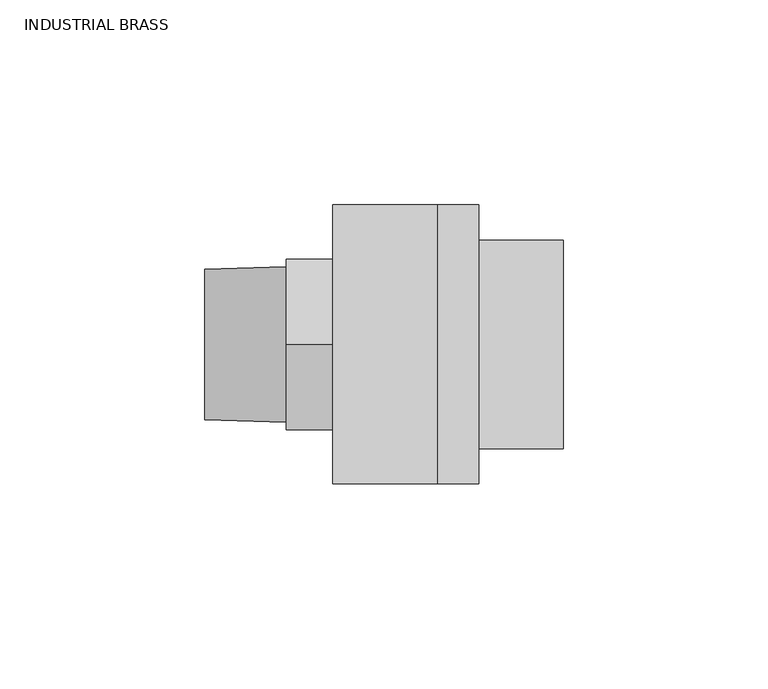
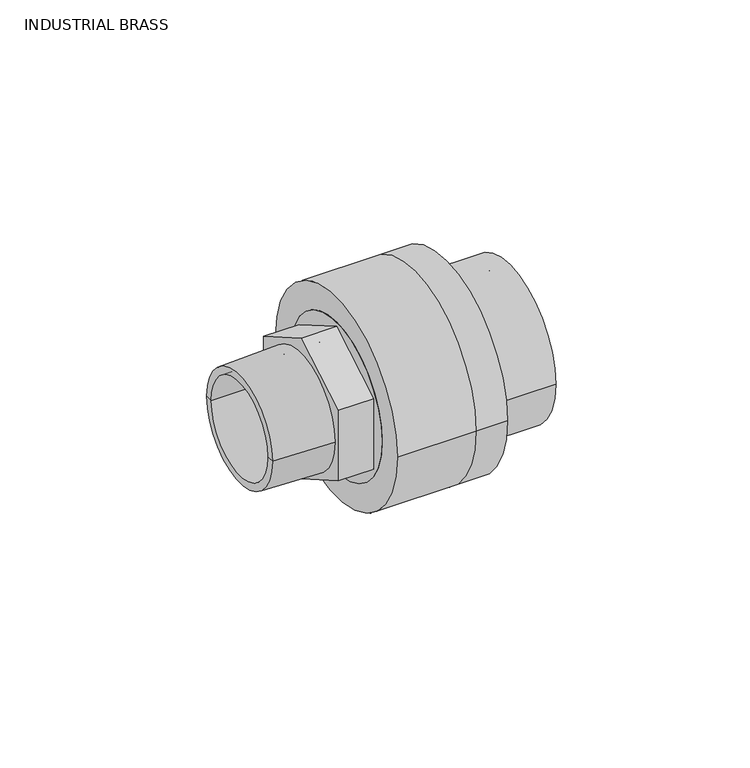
"""IFC4 building model written with IfcOpenShell, lengths in millimetres: valve geometry, Aquatherm - Transition Piece - M HEX : INDUSTRIAL BRASS."""

from ifc_helpers import new_model, si_unit, frame, origin, place, context, project, spatial, polyline, circle_curve, source, transform, mapped, element, save
from ifc_brep_helpers import plane_surface, cylinder_surface, revolved_surface, advanced_brep


def industrial_brass_5921bbe5(model_context):
    return source(origin(), model_context, "Body", "AdvancedBrep", [
        advanced_brep(
        [(25.4, -25.4, 0.0), (25.4, 25.4, 0.0), (25.4, -15.875, 0.0), (25.4, 15.875, 0.0), (0.0, -25.4, 0.0), (0.0, 25.4, 0.0), (0.0, 0.0, -24.0501028), (0.0, 20.828, -12.0250514), (0.0, 20.828, 12.0250514), (0.0, 0.0, 24.0501028), (0.0, -20.828, 12.0250514), (0.0, -20.828, -12.0250514), (0.0, -15.875, 0.0), (0.0, 15.875, 0.0), (-11.43, 0.0, -24.0501028), (-11.43, -20.828, -12.0250514), (-11.43, -20.828, 12.0250514), (-11.43, 0.0, 24.0501028), (-11.43, 20.828, 12.0250514), (-11.43, 20.828, -12.0250514), (-11.43, -18.9526355, 0.0), (-11.43, 18.9526355, 0.0), (-11.43, -15.875, 0.0), (-11.43, 15.875, 0.0), (-31.242, 15.875, 0.0), (-31.242, -15.875, 0.0), (-31.242, 18.3536145, 0.0), (-31.242, -18.3536145, 0.0)],
        [
            (0, 1, circle_curve(frame((25.4, 0.0, 0.0), z_axis=(1.0, 0.0, 0.0), x_axis=(0.0, 1.0, 0.0)), 25.4)),
            (1, 0, circle_curve(frame((25.4, 0.0, 0.0), z_axis=(1.0, 0.0, 0.0), x_axis=(0.0, 1.0, 0.0)), 25.4)),
            (2, 3, circle_curve(frame((25.4, 0.0, 0.0), z_axis=(-1.0, 0.0, 0.0), x_axis=(0.0, 1.0, 0.0)), 15.875)),
            (3, 2, circle_curve(frame((25.4, 0.0, 0.0), z_axis=(-1.0, 0.0, 0.0), x_axis=(0.0, 1.0, 0.0)), 15.875)),
            (4, 5, circle_curve(frame((0.0, 0.0, 0.0), z_axis=(-1.0, 0.0, 0.0), x_axis=(0.0, 1.0, 0.0)), 25.4)),
            (5, 4, circle_curve(frame((0.0, 0.0, 0.0), z_axis=(-1.0, 0.0, 0.0), x_axis=(0.0, 1.0, 0.0)), 25.4)),
            (6, 7),
            (7, 8),
            (8, 9),
            (9, 10),
            (10, 11),
            (11, 6),
            (0, 4),
            (5, 1),
            (2, 12),
            (12, 13, circle_curve(frame((0.0, 0.0, 0.0), z_axis=(-1.0, 0.0, 0.0), x_axis=(0.0, 1.0, 0.0)), 15.875)),
            (13, 3),
            (13, 12, circle_curve(frame((0.0, 0.0, 0.0), z_axis=(-1.0, 0.0, 0.0), x_axis=(0.0, 1.0, 0.0)), 15.875)),
            (14, 15),
            (15, 16),
            (16, 17),
            (17, 18),
            (18, 19),
            (19, 14),
            (20, 21, circle_curve(frame((-11.43, 0.0, 0.0), z_axis=(1.0, 0.0, 0.0), x_axis=(0.0, 1.0, 0.0)), 18.9526355)),
            (21, 20, circle_curve(frame((-11.43, 0.0, 0.0), z_axis=(1.0, 0.0, 0.0), x_axis=(0.0, 1.0, 0.0)), 18.9526355)),
            (19, 7),
            (6, 14),
            (18, 8),
            (17, 9),
            (16, 10),
            (15, 11),
            (12, 22),
            (22, 23, circle_curve(frame((-11.43, 0.0, 0.0), z_axis=(-1.0, 0.0, 0.0), x_axis=(0.0, 1.0, 0.0)), 15.875)),
            (23, 13),
            (23, 22, circle_curve(frame((-11.43, 0.0, 0.0), z_axis=(-1.0, 0.0, 0.0), x_axis=(0.0, 1.0, 0.0)), 15.875)),
            (23, 24),
            (24, 25, circle_curve(frame((-31.242, 0.0, 0.0), z_axis=(-1.0, 0.0, 0.0), x_axis=(0.0, 1.0, 0.0)), 15.875)),
            (25, 22),
            (25, 24, circle_curve(frame((-31.242, 0.0, 0.0), z_axis=(-1.0, 0.0, 0.0), x_axis=(0.0, 1.0, 0.0)), 15.875)),
            (24, 26),
            (26, 27, circle_curve(frame((-31.242, 0.0, 0.0), z_axis=(-1.0, 0.0, 0.0), x_axis=(0.0, 1.0, 0.0)), 18.3536145)),
            (27, 25),
            (27, 26, circle_curve(frame((-31.242, 0.0, 0.0), z_axis=(-1.0, 0.0, 0.0), x_axis=(0.0, 1.0, 0.0)), 18.3536145)),
            (26, 21),
            (20, 27),
        ],
        [
            plane_surface(frame((25.4, 25.4, 0.0), z_axis=(1.0, 0.0, 0.0), x_axis=(0.0, 0.0, 1.0))),
            plane_surface(frame((0.0, 25.4, 0.0), z_axis=(-1.0, 0.0, 0.0), x_axis=(0.0, 0.0, -1.0))),
            cylinder_surface(frame((0.0, 0.0, 0.0), z_axis=(1.0, 0.0, 0.0), x_axis=(0.0, 1.0, 0.0)), 25.4),
            revolved_surface(polyline([(0.0, 15.875, 0.0), (25.4, 15.875, 0.0)]), (17.447219, 0.0, 0.0), (-1.0, 0.0, 0.0)),
            plane_surface(frame((-11.43, 0.0, -24.0501028), z_axis=(-1.0, 0.0, 0.0), x_axis=(0.0, -0.8660254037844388, -0.49999999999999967))),
            plane_surface(frame((0.0, 0.0, -24.0501028), z_axis=(0.0, 0.49999999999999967, -0.8660254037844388), x_axis=(-1.0, 0.0, 0.0))),
            plane_surface(frame((0.0, 20.828, -12.0250514), z_axis=(0.0, 1.0, 0.0), x_axis=(-1.0, 0.0, 0.0))),
            plane_surface(frame((0.0, 20.828, 12.0250514), z_axis=(0.0, 0.49999999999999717, 0.8660254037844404), x_axis=(-1.0, 0.0, 0.0))),
            plane_surface(frame((0.0, 0.0, 24.0501028), z_axis=(0.0, -0.5000000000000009, 0.8660254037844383), x_axis=(-1.0, 0.0, 0.0))),
            plane_surface(frame((0.0, -20.828, 12.0250514), z_axis=(0.0, -1.0, 0.0), x_axis=(-1.0, 0.0, 0.0))),
            plane_surface(frame((0.0, -20.828, -12.0250514), z_axis=(0.0, -0.49999999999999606, -0.8660254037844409), x_axis=(-1.0, 0.0, 0.0))),
            revolved_surface(polyline([(-11.43, 15.875, 0.0), (0.0, 15.875, 0.0)]), (0.0, 0.0, 0.0), (-1.0, 0.0, 0.0)),
            revolved_surface(polyline([(-31.242000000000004, 15.875, 0.0), (-11.43, 15.875, 0.0)]), (-66.1150688, 0.0, 0.0), (-1.0, 0.0, 0.0)),
            plane_surface(frame((-31.242, 0.0, 0.0), z_axis=(-1.0, 0.0, 0.0), x_axis=(0.0, 1.0, 0.0))),
            revolved_surface(polyline([(-11.43, 18.9526355, 0.0), (-31.242, 18.3536145, 0.0)]), (-66.1150688, 0.0, 0.0), (-1.0, 0.0, 0.0)),
        ],
        [
            (0, [[1, 2], [3, 4]]),
            (1, [[5, 6], [7, 8, 9, 10, 11, 12]]),
            (2, [[-1, 13, -6, 14]]),
            (2, [[-2, -14, -5, -13]]),
            (3, [[-3, 15, 16, 17]]),
            (3, [[-4, -17, 18, -15]]),
            (4, [[19, 20, 21, 22, 23, 24], [25, 26]]),
            (5, [[-24, 27, -7, 28]]),
            (6, [[-23, 29, -8, -27]]),
            (7, [[-22, 30, -9, -29]]),
            (8, [[-21, 31, -10, -30]]),
            (9, [[-20, 32, -11, -31]]),
            (10, [[-19, -28, -12, -32]]),
            (11, [[33, 34, 35, -16]]),
            (11, [[-33, -18, -35, 36]]),
            (12, [[37, 38, 39, -36]]),
            (12, [[-37, -34, -39, 40]]),
            (13, [[-38, 41, 42, 43]]),
            (13, [[-40, -43, 44, -41]]),
            (14, [[-42, 45, -25, 46]]),
            (14, [[-44, -46, -26, -45]]),
        ],
    ),
        advanced_brep(
        [(0.0, -34.036, 0.0), (0.0, 34.036, 0.0), (0.0, -25.4, 0.0), (0.0, 25.4, 0.0), (25.4, 34.036, 0.0), (25.4, -34.036, 0.0), (25.4, 25.4, 0.0), (25.4, -25.4, 0.0), (35.56, -34.036, 0.0), (35.56, 34.036, 0.0), (35.56, 25.4, 0.0), (35.56, -25.4, 0.0), (35.56, 19.939, 0.0), (35.56, -19.939, 0.0), (35.56, -15.875, 0.0), (35.56, 15.875, 0.0), (25.4, -15.875, 0.0), (25.4, 15.875, 0.0), (56.134, -25.4, 0.0), (56.134, 25.4, 0.0), (56.134, -19.939, 0.0), (56.134, 19.939, 0.0)],
        [
            (0, 1, circle_curve(frame((0.0, 0.0, 0.0), z_axis=(-1.0, 0.0, 0.0), x_axis=(0.0, 1.0, 0.0)), 34.036)),
            (1, 0, circle_curve(frame((0.0, 0.0, 0.0), z_axis=(-1.0, 0.0, 0.0), x_axis=(0.0, 1.0, 0.0)), 34.036)),
            (2, 3, circle_curve(frame((0.0, 0.0, 0.0), z_axis=(1.0, 0.0, 0.0), x_axis=(0.0, 1.0, 0.0)), 25.4)),
            (3, 2, circle_curve(frame((0.0, 0.0, 0.0), z_axis=(1.0, 0.0, 0.0), x_axis=(0.0, 1.0, 0.0)), 25.4)),
            (1, 4),
            (4, 5, circle_curve(frame((25.4, 0.0, 0.0), z_axis=(-1.0, 0.0, 0.0), x_axis=(0.0, 1.0, 0.0)), 34.036)),
            (5, 0),
            (5, 4, circle_curve(frame((25.4, 0.0, 0.0), z_axis=(-1.0, 0.0, 0.0), x_axis=(0.0, 1.0, 0.0)), 34.036)),
            (3, 6),
            (6, 7, circle_curve(frame((25.4, 0.0, 0.0), z_axis=(1.0, 0.0, 0.0), x_axis=(0.0, 1.0, 0.0)), 25.4)),
            (7, 2),
            (7, 6, circle_curve(frame((25.4, 0.0, 0.0), z_axis=(1.0, 0.0, 0.0), x_axis=(0.0, 1.0, 0.0)), 25.4)),
            (8, 9, circle_curve(frame((35.56, 0.0, 0.0), z_axis=(1.0, 0.0, 0.0), x_axis=(0.0, 1.0, 0.0)), 34.036)),
            (9, 8, circle_curve(frame((35.56, 0.0, 0.0), z_axis=(1.0, 0.0, 0.0), x_axis=(0.0, 1.0, 0.0)), 34.036)),
            (10, 11, circle_curve(frame((35.56, 0.0, 0.0), z_axis=(-1.0, 0.0, 0.0), x_axis=(0.0, 1.0, 0.0)), 25.4)),
            (11, 10, circle_curve(frame((35.56, 0.0, 0.0), z_axis=(-1.0, 0.0, 0.0), x_axis=(0.0, 1.0, 0.0)), 25.4)),
            (12, 13, circle_curve(frame((35.56, 0.0, 0.0), z_axis=(1.0, 0.0, 0.0), x_axis=(0.0, 1.0, 0.0)), 19.939)),
            (13, 12, circle_curve(frame((35.56, 0.0, 0.0), z_axis=(1.0, 0.0, 0.0), x_axis=(0.0, 1.0, 0.0)), 19.939)),
            (14, 15, circle_curve(frame((35.56, 0.0, 0.0), z_axis=(-1.0, 0.0, 0.0), x_axis=(0.0, 1.0, 0.0)), 15.875)),
            (15, 14, circle_curve(frame((35.56, 0.0, 0.0), z_axis=(-1.0, 0.0, 0.0), x_axis=(0.0, 1.0, 0.0)), 15.875)),
            (16, 17, circle_curve(frame((25.4, 0.0, 0.0), z_axis=(1.0, 0.0, 0.0), x_axis=(0.0, 1.0, 0.0)), 15.875)),
            (17, 16, circle_curve(frame((25.4, 0.0, 0.0), z_axis=(1.0, 0.0, 0.0), x_axis=(0.0, 1.0, 0.0)), 15.875)),
            (8, 5),
            (4, 9),
            (14, 16),
            (17, 15),
            (18, 19, circle_curve(frame((56.134, 0.0, 0.0), z_axis=(1.0, 0.0, 0.0), x_axis=(0.0, 1.0, 0.0)), 25.4)),
            (19, 18, circle_curve(frame((56.134, 0.0, 0.0), z_axis=(1.0, 0.0, 0.0), x_axis=(0.0, 1.0, 0.0)), 25.4)),
            (20, 21, circle_curve(frame((56.134, 0.0, 0.0), z_axis=(-1.0, 0.0, 0.0), x_axis=(0.0, 1.0, 0.0)), 19.939)),
            (21, 20, circle_curve(frame((56.134, 0.0, 0.0), z_axis=(-1.0, 0.0, 0.0), x_axis=(0.0, 1.0, 0.0)), 19.939)),
            (18, 11),
            (10, 19),
            (20, 13),
            (12, 21),
        ],
        [
            plane_surface(frame((0.0, 34.036, 0.0), z_axis=(-1.0, 0.0, 0.0), x_axis=(0.0, 0.0, -1.0))),
            cylinder_surface(frame((0.0, 0.0, 0.0), z_axis=(1.0, 0.0, 0.0), x_axis=(0.0, 1.0, 0.0)), 34.036),
            revolved_surface(polyline([(0.0, 25.4, 0.0), (25.4, 25.4, 0.0)]), (-38.1, 0.0, 0.0), (-1.0, 0.0, 0.0)),
            plane_surface(frame((35.56, 34.036, 0.0), z_axis=(1.0, 0.0, 0.0), x_axis=(0.0, 0.0, 1.0))),
            plane_surface(frame((25.4, 34.036, 0.0), z_axis=(-1.0, 0.0, 0.0), x_axis=(0.0, 0.0, -1.0))),
            cylinder_surface(frame((25.4, 0.0, 0.0), z_axis=(1.0, 0.0, 0.0), x_axis=(0.0, 1.0, 0.0)), 34.036),
            revolved_surface(polyline([(25.400000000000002, 15.875, 0.0), (35.56, 15.875, 0.0)]), (-19.05, 0.0, 0.0), (-1.0, 0.0, 0.0)),
            plane_surface(frame((56.134, 25.4, 0.0), z_axis=(1.0, 0.0, 0.0), x_axis=(0.0, 0.0, 1.0))),
            cylinder_surface(frame((35.56, 0.0, 0.0), z_axis=(1.0, 0.0, 0.0), x_axis=(0.0, 1.0, 0.0)), 25.4),
            revolved_surface(polyline([(35.56, 19.939, 0.0), (56.134, 19.939, 0.0)]), (0.0, 0.0, 0.0), (-1.0, 0.0, 0.0)),
        ],
        [
            (0, [[1, 2], [3, 4]]),
            (1, [[-2, 5, 6, 7]]),
            (1, [[-1, -7, 8, -5]]),
            (2, [[-4, 9, 10, 11]]),
            (2, [[-3, -11, 12, -9]]),
            (3, [[13, 14], [15, 16]]),
            (3, [[17, 18], [19, 20]]),
            (4, [[-10, -12], [21, 22]]),
            (5, [[-13, 23, -6, 24]]),
            (5, [[-14, -24, -8, -23]]),
            (6, [[-19, 25, -22, 26]]),
            (6, [[-20, -26, -21, -25]]),
            (7, [[27, 28], [29, 30]]),
            (8, [[-27, 31, -15, 32]]),
            (8, [[-28, -32, -16, -31]]),
            (9, [[-29, 33, -17, 34]]),
            (9, [[-30, -34, -18, -33]]),
        ],
    ),
    ])


if __name__ == "__main__":
    model = new_model("IFC4")
    model_context = context("Model", 3, world=origin())
    ifc_project = project(units=[si_unit("LENGTHUNIT", "METRE", prefix="MILLI")], contexts=[model_context])
    site = spatial("IfcSite", under=ifc_project)
    building = spatial("IfcBuilding", under=site)
    placement = place(None, origin())
    industrial_brass_shape = industrial_brass_5921bbe5(model_context)
    element("IfcValve", 1, ObjectType="Aquatherm - Transition Piece - M HEX : INDUSTRIAL BRASS", at=placement, inside=building, context=model_context, shape_type="MappedRepresentation", body=[
        mapped(industrial_brass_shape, transform((0.0, 0.0, 0.0), x_axis=(1.0, 0.0, 0.0), y_axis=(0.0, 1.0, 0.0), z_axis=(0.0, 0.0, 1.0))),
    ])
    save(model, "model.ifc")
